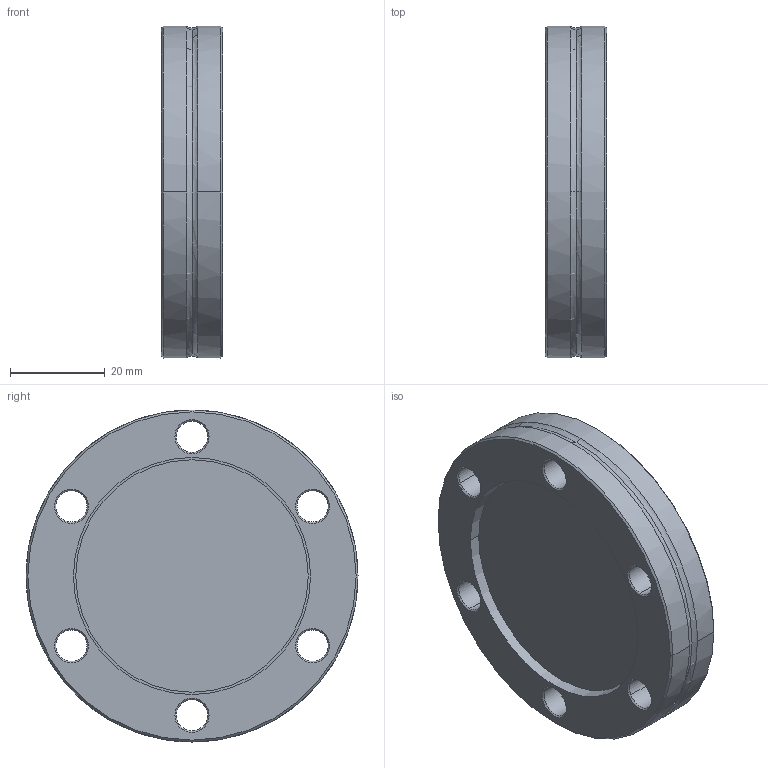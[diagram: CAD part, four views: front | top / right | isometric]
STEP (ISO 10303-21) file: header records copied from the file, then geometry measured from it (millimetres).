
FILE_DESCRIPTION((''),'2;1');
FILE_NAME('N:\Transfer\Berger Martin\Leybold\C15\210112.stp','2005-02-07T10:00:39',('VCRC_L'),(''),'Autodesk Inventor 9','Autodesk Inventor 9','');
FILE_SCHEMA(('AUTOMOTIVE_DESIGN { 1 0 10303 214 1 1 1 1 }'));
Length unit declared in the file: millimetre
Products named in the file (1): 210112
Bounding box: 13 x 70 x 70 mm (x, y, z)
Volume: 29858.7 mm3; surface area: 17558.4 mm2
Topology: 1 solids, 1 shells, 105 faces, 260 edges, 166 vertices
Faces by surface type: cone 36, bspline 22, cylinder 20, torus 16, plane 11
Entity records: 3877 total; most frequent: CARTESIAN_POINT 1264, DIRECTION 604, ORIENTED_EDGE 520, AXIS2_PLACEMENT_3D 268, EDGE_CURVE 260, CIRCLE 184, VERTEX_POINT 166, EDGE_LOOP 126
